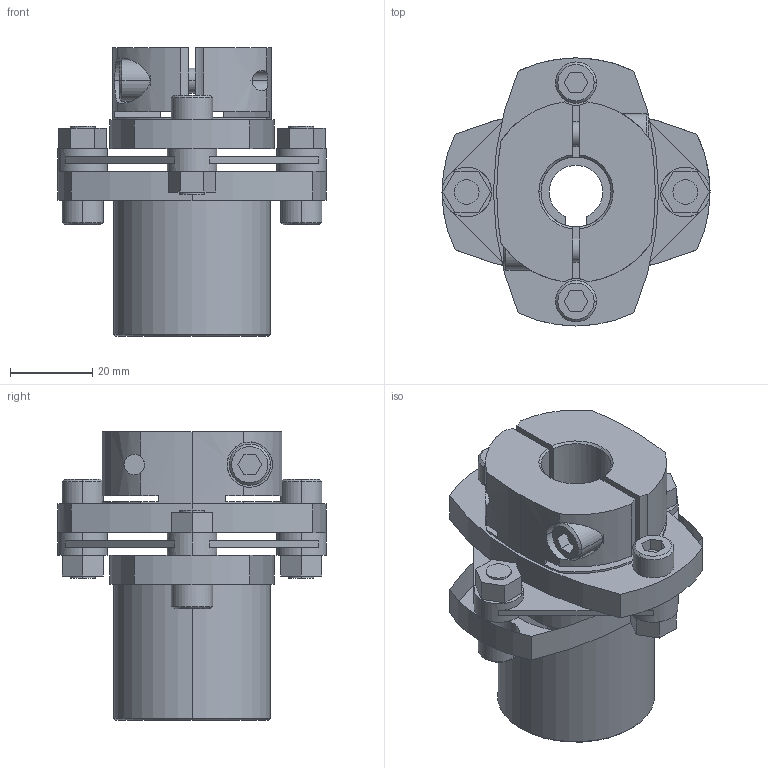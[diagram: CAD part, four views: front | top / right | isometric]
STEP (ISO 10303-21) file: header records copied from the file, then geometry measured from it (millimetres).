
FILE_DESCRIPTION((''),'2;1');
FILE_NAME('LCS-65M-16L亊17B.stp','2015-10-28T03:07:56',(''),(''),'AutoCAD STEP 2000i','AutoCAD 2000i',', , ');
FILE_SCHEMA(('CONFIG_CONTROL_DESIGN'));
Length unit declared in the file: millimetre
Products named in the file (8): LCS-65M-16L×16B; 忣兜1; LC65-B016; LC65M-L016; LC65M-L011; LC65-B014-1; LC65-B014; LCS65-ITA
Assembly tree (7 placements, depth 2):
  LCS-65M-16L×16B
    忣兜1
    LC65-B016
    LC65M-L016
    LC65M-L011
    LC65-B014-1
    LC65-B014
    LCS65-ITA
Bounding box: 65 x 65 x 70 mm (x, y, z)
Volume: 82312.9 mm3; surface area: 29397.8 mm2
Topology: 1 solids, 1 shells, 222 faces, 582 edges, 380 vertices
Faces by surface type: plane 115, cylinder 84, cone 23
Entity records: 7357 total; most frequent: CARTESIAN_POINT 1500, DIRECTION 1244, ORIENTED_EDGE 1164, EDGE_CURVE 582, AXIS2_PLACEMENT_3D 454, VERTEX_POINT 380, VECTOR 336, LINE 336
